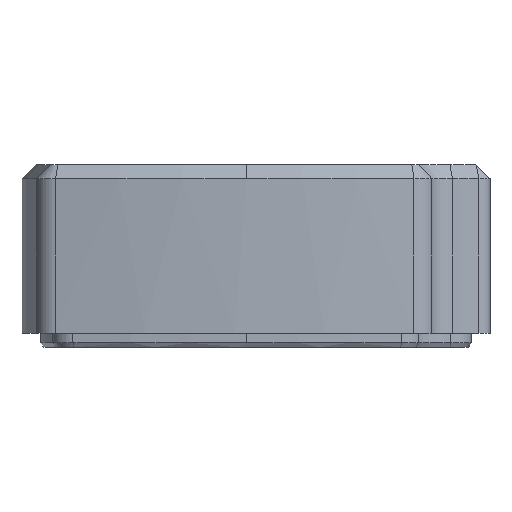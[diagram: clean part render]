
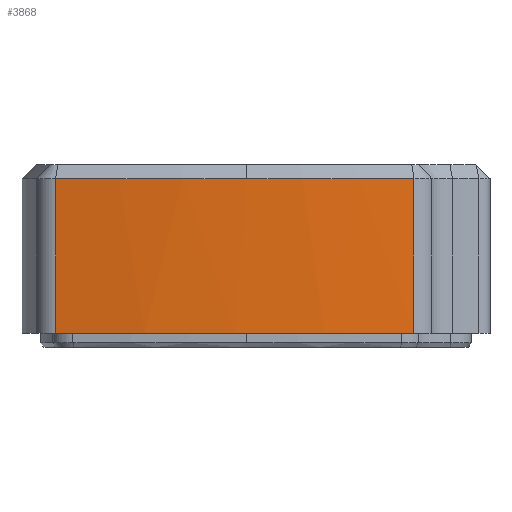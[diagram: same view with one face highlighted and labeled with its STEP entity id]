
A CAD part, left-side view. The second image highlights one B-rep face of the part: STEP entity #3868.
In plain terms, the highlighted cylindrical face has radius 120 mm (diameter 240 mm), a partial arc.
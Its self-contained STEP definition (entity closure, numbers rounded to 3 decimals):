
#46 = CARTESIAN_POINT ( 'NONE',  ( 97., 0., -1.5 ) ) ;
#108 = AXIS2_PLACEMENT_3D ( 'NONE', #279, #239, #3944 ) ;
#217 = VECTOR ( 'NONE', #3543, 1000. ) ;
#239 = DIRECTION ( 'NONE',  ( 0., 0., -1. ) ) ;
#279 = CARTESIAN_POINT ( 'NONE',  ( 97., 0., 16.5 ) ) ;
#443 = DIRECTION ( 'NONE',  ( 0., 0., -1. ) ) ;
#574 = VERTEX_POINT ( 'NONE', #1645 ) ;
#612 = EDGE_CURVE ( 'NONE', #3738, #3260, #3768, .T. ) ;
#861 = ORIENTED_EDGE ( 'NONE', *, *, #3403, .F. ) ;
#864 = EDGE_CURVE ( 'NONE', #4409, #3738, #4617, .T. ) ;
#865 = CARTESIAN_POINT ( 'NONE',  ( -21.251, 20.414, -1.5 ) ) ;
#999 = CARTESIAN_POINT ( 'NONE',  ( -21.662, -17.872, 16.5 ) ) ;
#1092 = CARTESIAN_POINT ( 'NONE',  ( -23., 0., 16.5 ) ) ;
#1200 = EDGE_CURVE ( 'NONE', #3260, #574, #3822, .T. ) ;
#1352 = CARTESIAN_POINT ( 'NONE',  ( -21.662, -17.872, 0. ) ) ;
#1359 = ORIENTED_EDGE ( 'NONE', *, *, #612, .T. ) ;
#1603 = LINE ( 'NONE', #3617, #217 ) ;
#1644 = DIRECTION ( 'NONE',  ( -1., 0., 0. ) ) ;
#1645 = CARTESIAN_POINT ( 'NONE',  ( -21.251, 20.414, 0. ) ) ;
#1833 = CYLINDRICAL_SURFACE ( 'NONE', #4042, 120. ) ;
#1948 = ORIENTED_EDGE ( 'NONE', *, *, #4856, .T. ) ;
#2134 = ORIENTED_EDGE ( 'NONE', *, *, #864, .T. ) ;
#2439 = AXIS2_PLACEMENT_3D ( 'NONE', #3077, #2585, #1644 ) ;
#2585 = DIRECTION ( 'NONE',  ( 0., 0., -1. ) ) ;
#2625 = FACE_OUTER_BOUND ( 'NONE', #5325, .T. ) ;
#3077 = CARTESIAN_POINT ( 'NONE',  ( 97., 0., 0. ) ) ;
#3260 = VERTEX_POINT ( 'NONE', #4020 ) ;
#3295 = DIRECTION ( 'NONE',  ( 1., 0., 0. ) ) ;
#3403 = EDGE_CURVE ( 'NONE', #4387, #574, #4827, .T. ) ;
#3543 = DIRECTION ( 'NONE',  ( 0., 0., 1. ) ) ;
#3617 = CARTESIAN_POINT ( 'NONE',  ( -21.662, -17.872, -1.5 ) ) ;
#3693 = DIRECTION ( 'NONE',  ( 0., 0., -1. ) ) ;
#3738 = VERTEX_POINT ( 'NONE', #1092 ) ;
#3768 = CIRCLE ( 'NONE', #4752, 120. ) ;
#3822 = LINE ( 'NONE', #865, #3882 ) ;
#3868 = ADVANCED_FACE ( 'NONE', ( #2625 ), #1833, .T. ) ;
#3882 = VECTOR ( 'NONE', #443, 1000. ) ;
#3944 = DIRECTION ( 'NONE',  ( 1., 0., 0. ) ) ;
#4020 = CARTESIAN_POINT ( 'NONE',  ( -21.251, 20.414, 16.5 ) ) ;
#4042 = AXIS2_PLACEMENT_3D ( 'NONE', #46, #5602, #3295 ) ;
#4138 = DIRECTION ( 'NONE',  ( 1., 0., 0. ) ) ;
#4355 = ORIENTED_EDGE ( 'NONE', *, *, #1200, .T. ) ;
#4387 = VERTEX_POINT ( 'NONE', #1352 ) ;
#4409 = VERTEX_POINT ( 'NONE', #999 ) ;
#4617 = CIRCLE ( 'NONE', #108, 120. ) ;
#4752 = AXIS2_PLACEMENT_3D ( 'NONE', #5085, #3693, #4138 ) ;
#4827 = CIRCLE ( 'NONE', #2439, 120. ) ;
#4856 = EDGE_CURVE ( 'NONE', #4387, #4409, #1603, .T. ) ;
#5085 = CARTESIAN_POINT ( 'NONE',  ( 97., 0., 16.5 ) ) ;
#5325 = EDGE_LOOP ( 'NONE', ( #4355, #861, #1948, #2134, #1359 ) ) ;
#5602 = DIRECTION ( 'NONE',  ( 0., 0., 1. ) ) ;
